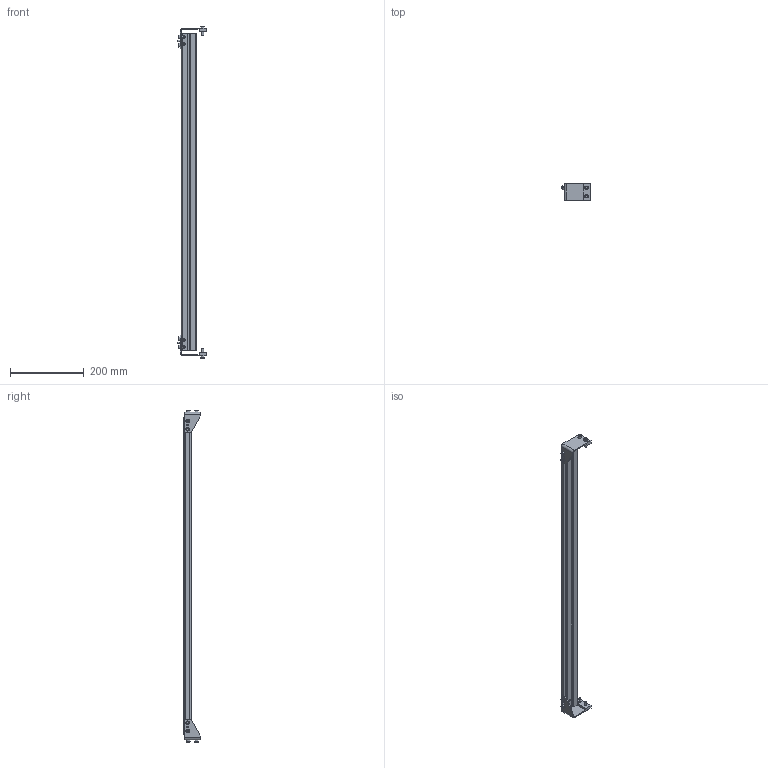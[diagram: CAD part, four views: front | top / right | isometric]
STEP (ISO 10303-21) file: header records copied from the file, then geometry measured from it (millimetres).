
FILE_DESCRIPTION((''),'2;1');
FILE_NAME('3076WWM_2_ASM','2023-03-15T',('jenni.wallner'),(''),'PRO/ENGINEER BY PARAMETRIC TECHNOLOGY CORPORATION, 2012420','PRO/ENGINEER BY PARAMETRIC TECHNOLOGY CORPORATION, 2012420','');
FILE_SCHEMA(('CONFIG_CONTROL_DESIGN'));
Length unit declared in the file: inch
Products named in the file (4): 677721_1; BRACKET_L; BRACKET_R; 3076WWM_2_ASM
Assembly tree (3 placements, depth 2):
  3076WWM_2_ASM
    677721_1
    BRACKET_L
    BRACKET_R
Bounding box: 76.2 x 46.13 x 900.42 mm (x, y, z)
Volume: 394662.8 mm3; surface area: 237574.5 mm2
Topology: 3 solids, 3 shells, 296 faces, 730 edges, 476 vertices
Faces by surface type: plane 188, cylinder 76, cone 32
Entity records: 8834 total; most frequent: CARTESIAN_POINT 1525, DIRECTION 1512, ORIENTED_EDGE 1460, EDGE_CURVE 730, VECTOR 538, LINE 538, AXIS2_PLACEMENT_3D 487, VERTEX_POINT 476
